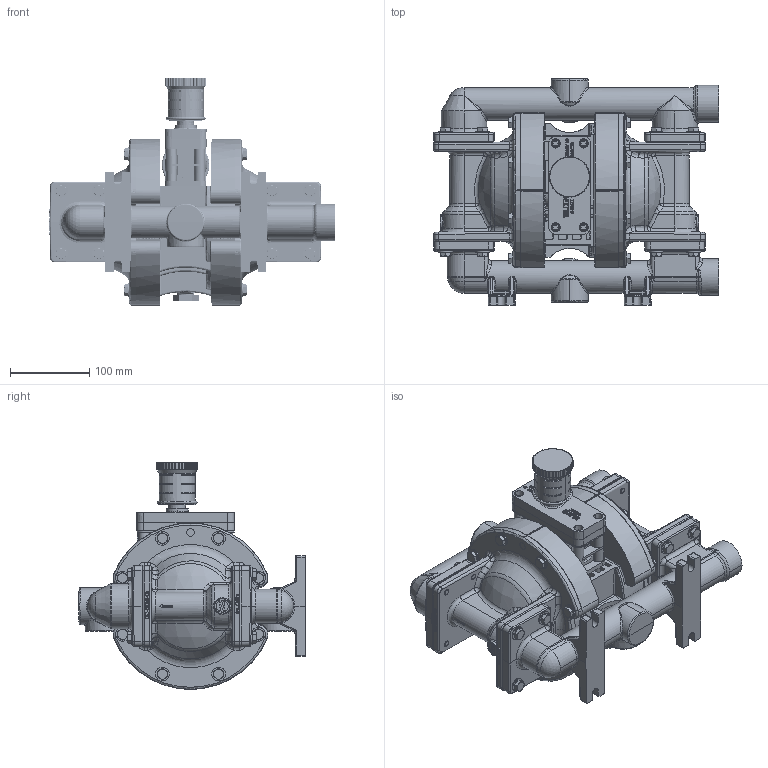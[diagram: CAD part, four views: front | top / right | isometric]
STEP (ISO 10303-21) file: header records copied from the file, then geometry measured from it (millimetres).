
FILE_DESCRIPTION (( 'STEP AP203' ), '1' );
FILE_NAME ('P220_alum_threaded.STEP', '2022-07-04T20:16:53', ( '' ), ( '' ), 'SwSTEP 2.0', 'SolidWorks 2019', '' );
FILE_SCHEMA (( 'CONFIG_CONTROL_DESIGN' ));
Length unit declared in the file: inch
Products named in the file (1): P220_alum_threaded
Bounding box: 360.25 x 285.75 x 286.81 mm (x, y, z)
Volume: 6976135.9 mm3; surface area: 566256.2 mm2
Topology: 1 solids, 1 shells, 6564 faces, 17266 edges, 11008 vertices
Faces by surface type: plane 4247, cylinder 1231, cone 417, bspline 389, torus 174, sphere 106
Entity records: 272832 total; most frequent: CARTESIAN_POINT 117061, ORIENTED_EDGE 34516, DIRECTION 29158, EDGE_CURVE 17258, VECTOR 11542, LINE 11542, VERTEX_POINT 11008, AXIS2_PLACEMENT_3D 8808
